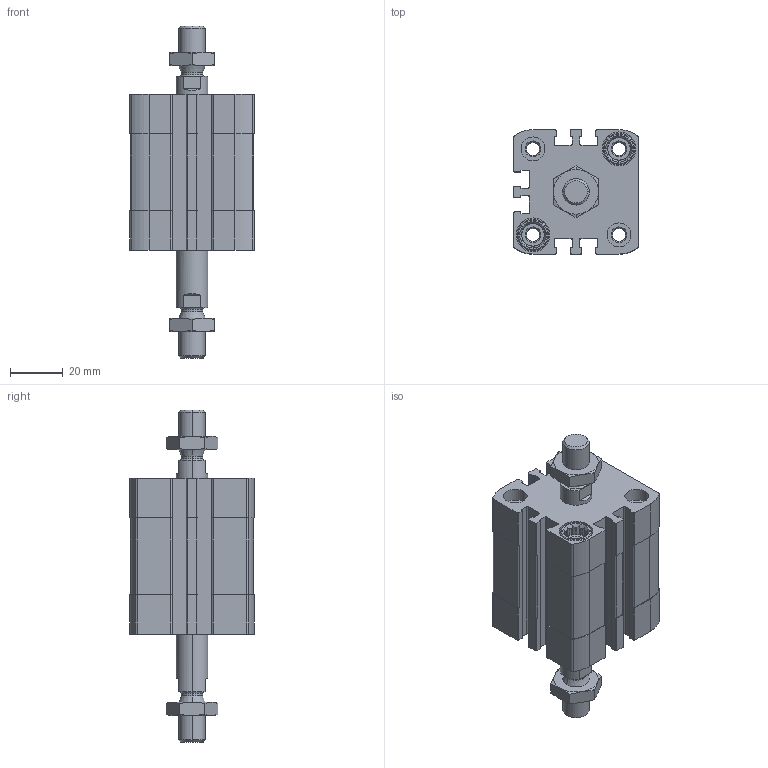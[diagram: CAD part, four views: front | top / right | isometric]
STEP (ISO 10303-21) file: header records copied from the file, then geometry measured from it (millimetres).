
FILE_DESCRIPTION (( 'STEP AP203' ), '1' );
FILE_NAME ('CCN32-15-P.STEP', '2020-06-22T18:46:14', ( '' ), ( '' ), 'SwSTEP 2.0', 'SolidWorks 2019', '' );
FILE_SCHEMA (( 'CONFIG_CONTROL_DESIGN' ));
Length unit declared in the file: millimetre
Products named in the file (1): CCN32-15-P
Bounding box: 47 x 47 x 125.5 mm (x, y, z)
Volume: 103691.6 mm3; surface area: 39301.9 mm2
Topology: 4 solids, 4 shells, 536 faces, 1416 edges, 920 vertices
Faces by surface type: plane 288, cylinder 180, cone 60, torus 8
Entity records: 17371 total; most frequent: CARTESIAN_POINT 3741, DIRECTION 2898, ORIENTED_EDGE 2832, EDGE_CURVE 1416, AXIS2_PLACEMENT_3D 1069, VERTEX_POINT 920, VECTOR 760, LINE 760
